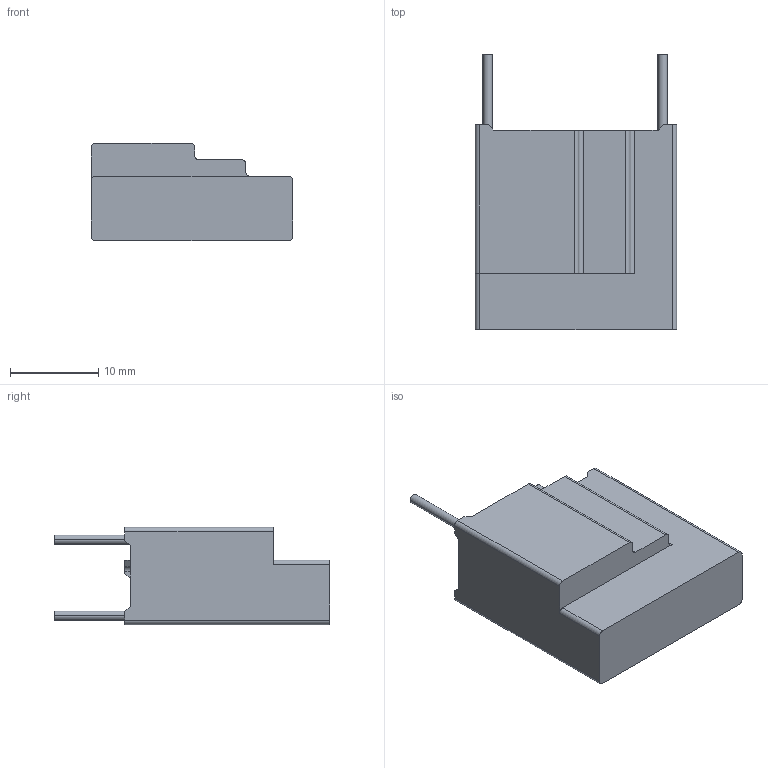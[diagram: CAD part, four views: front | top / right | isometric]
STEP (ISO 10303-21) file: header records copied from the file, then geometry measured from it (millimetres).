
FILE_DESCRIPTION((''),'2;1');
FILE_NAME('20S4401-20200616','2020-06-19T',('set'),(''),'PRO/ENGINEER BY PARAMETRIC TECHNOLOGY CORPORATION, 2012310','PRO/ENGINEER BY PARAMETRIC TECHNOLOGY CORPORATION, 2012310','');
FILE_SCHEMA(('CONFIG_CONTROL_DESIGN','SHAPE_APPEARANCE_LAYERS_GROUPS'));
Length unit declared in the file: millimetre
Products named in the file (1): 20S4401-20200616
Bounding box: 22.8 x 31.2 x 11 mm (x, y, z)
Volume: 1403.3 mm3; surface area: 3620 mm2
Topology: 1 solids, 2 shells, 101 faces, 285 edges, 190 vertices
Faces by surface type: plane 77, cylinder 24
Entity records: 3296 total; most frequent: CARTESIAN_POINT 576, ORIENTED_EDGE 570, DIRECTION 535, EDGE_CURVE 285, VECTOR 237, LINE 237, VERTEX_POINT 190, AXIS2_PLACEMENT_3D 149
